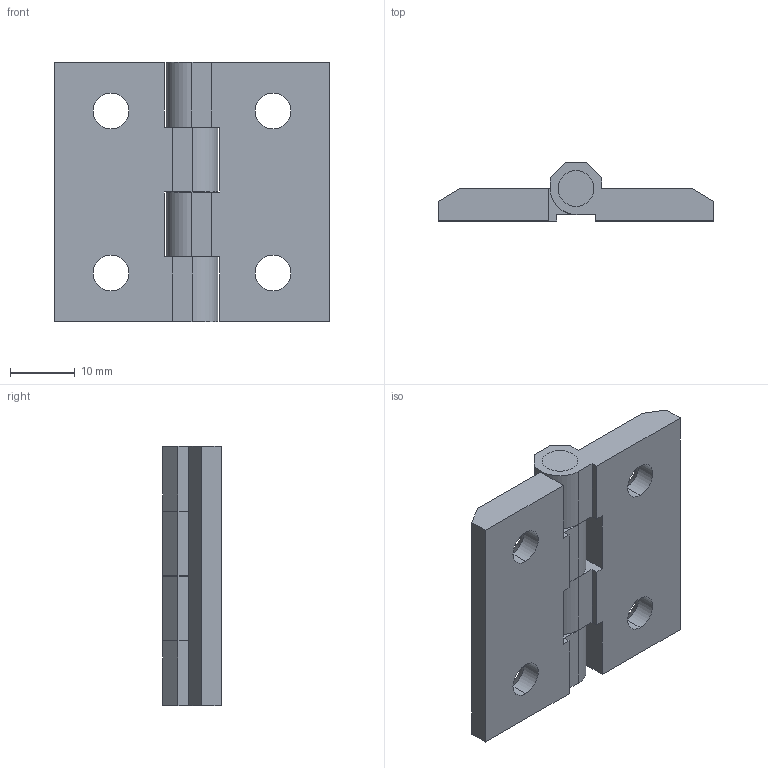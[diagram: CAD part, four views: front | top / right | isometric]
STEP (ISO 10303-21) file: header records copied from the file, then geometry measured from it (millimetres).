
FILE_DESCRIPTION (( 'STEP AP203' ), '1' );
FILE_NAME ('XG02-067-3.STEP', '2023-12-09T08:47:03', ( '' ), ( '' ), 'SwSTEP 2.0', 'SolidWorks 2020', '' );
FILE_SCHEMA (( 'CONFIG_CONTROL_DESIGN' ));
Length unit declared in the file: millimetre
Products named in the file (3): XG02-067-3; 种赽; 226-1A
Assembly tree (3 placements, depth 2):
  XG02-067-3
    226-1A  x2
    种赽
Bounding box: 42.5 x 9 x 40 mm (x, y, z)
Volume: 8186.9 mm3; surface area: 6327.9 mm2
Topology: 3 solids, 3 shells, 82 faces, 220 edges, 144 vertices
Faces by surface type: plane 52, cylinder 22, cone 8
Entity records: 1676 total; most frequent: DIRECTION 239, CARTESIAN_POINT 236, ORIENTED_EDGE 226, EDGE_CURVE 113, LINE 85, VECTOR 85, AXIS2_PLACEMENT_3D 77, VERTEX_POINT 74
